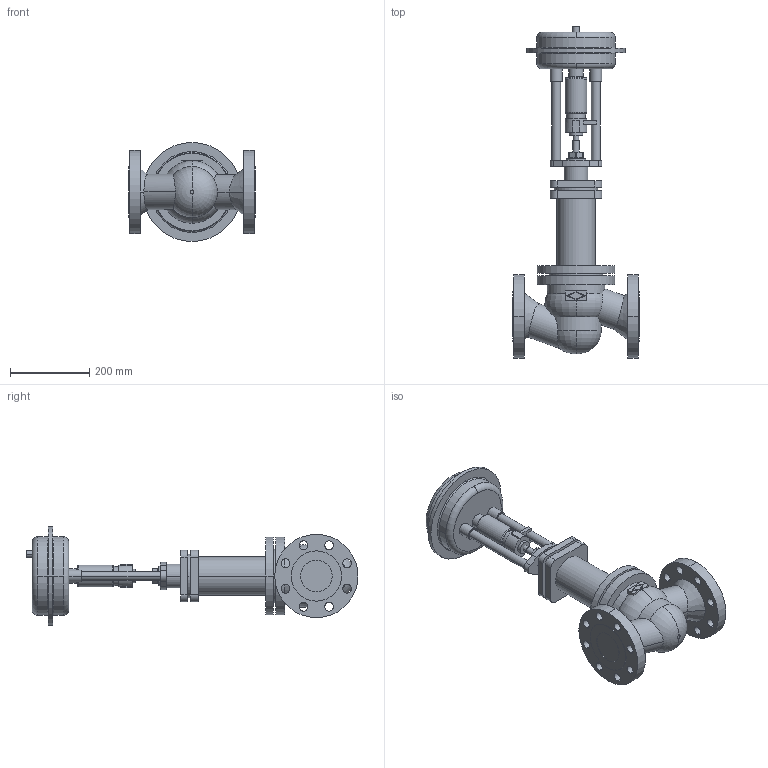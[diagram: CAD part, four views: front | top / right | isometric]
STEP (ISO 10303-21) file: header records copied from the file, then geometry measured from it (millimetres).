
FILE_DESCRIPTION( ( '' ), '1' );
FILE_NAME( 'F:/DE-SHS/TB/OR/04-Sonstiges/daten/files_3d/470-471_ANSI/c000005350.stp', '2014-06-02T05:56:55', ( '' ), ( '' ), ' ', ' ', ' ' );
FILE_SCHEMA( ( 'CONFIG_CONTROL_DESIGN' ) );
Length unit declared in the file: millimetre
Products named in the file (2): 1; 2
Bounding box: 318 x 837.7 x 250 mm (x, y, z)
Volume: 12130207.4 mm3; surface area: 731012.5 mm2
Topology: 2 solids, 2 shells, 231 faces, 587 edges, 392 vertices
Faces by surface type: cylinder 116, plane 86, torus 21, cone 8
Entity records: 7854 total; most frequent: CARTESIAN_POINT 1818, DIRECTION 1350, ORIENTED_EDGE 1174, EDGE_CURVE 587, AXIS2_PLACEMENT_3D 548, VERTEX_POINT 392, CIRCLE 315, EDGE_LOOP 295
